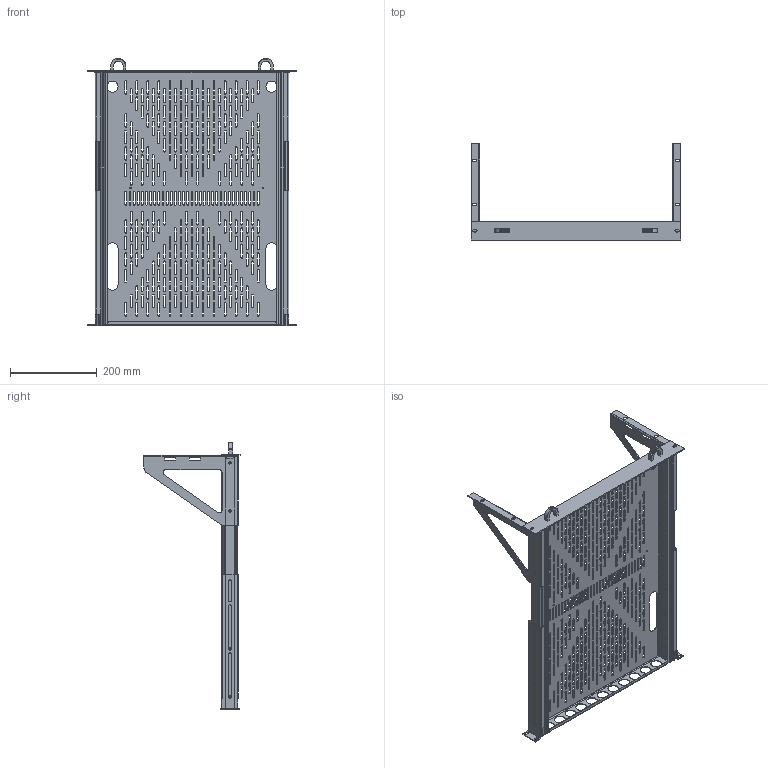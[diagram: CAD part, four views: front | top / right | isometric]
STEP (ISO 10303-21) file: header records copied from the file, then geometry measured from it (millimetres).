
FILE_DESCRIPTION((''),'2;1');
FILE_NAME('ASS4-23VTR_ASM','2016-05-04T',('bmann'),('Middle Atlantic Products'),'PRO/ENGINEER BY PARAMETRIC TECHNOLOGY CORPORATION, 2014310','PRO/ENGINEER BY PARAMETRIC TECHNOLOGY CORPORATION, 2014310','');
FILE_SCHEMA(('CONFIG_CONTROL_DESIGN'));
Length unit declared in the file: inch
Products named in the file (12): BVTRB; PVTRB_ASM; 500-00743_SLIDE_OUTER; 500-00743_SLIDE_MIDDLE; 500-00734_SLIDE_INNER; ST500-00743_ASM; PVTR4EL; PVTR4ER; PVTRFP; PVTRRS; 500-00751; ASS4-23VTR_ASM
Assembly tree (14 placements, depth 3):
  ASS4-23VTR_ASM
    PVTRB_ASM
      BVTRB
    ST500-00743_ASM  x2
      500-00743_SLIDE_OUTER
      500-00743_SLIDE_MIDDLE
      500-00734_SLIDE_INNER
    PVTR4EL
    PVTR4ER
    PVTRFP
    PVTRRS  x2
    500-00751  x2
Bounding box: 483.01 x 221.18 x 615.02 mm (x, y, z)
Volume: 694200.1 mm3; surface area: 1023229.2 mm2
Topology: 14 solids, 14 shells, 2018 faces, 5614 edges, 3628 vertices
Faces by surface type: plane 1096, cylinder 910, bspline 12
Entity records: 59467 total; most frequent: CARTESIAN_POINT 10422, DIRECTION 10199, ORIENTED_EDGE 9990, EDGE_CURVE 4995, AXIS2_PLACEMENT_3D 3447, VECTOR 3305, LINE 3305, VERTEX_POINT 3258
